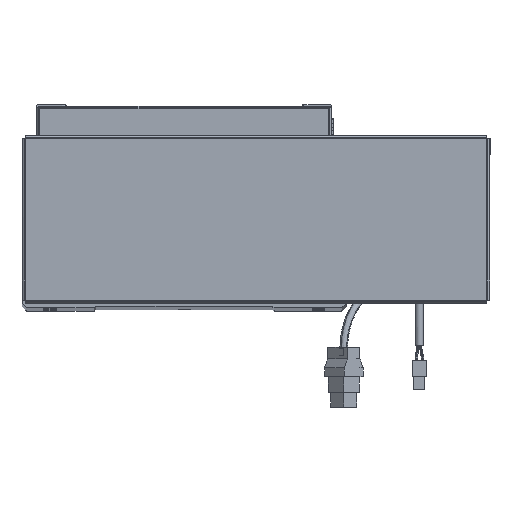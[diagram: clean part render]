
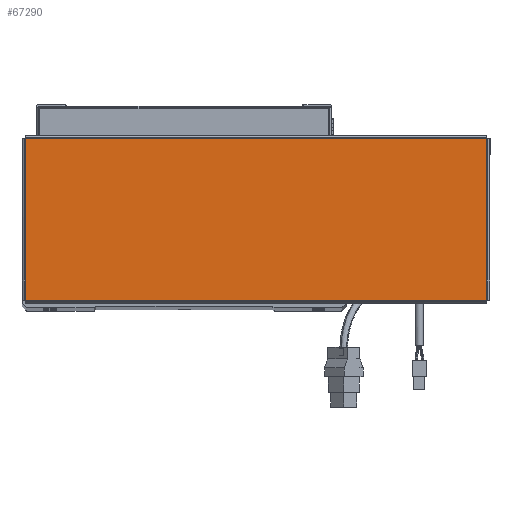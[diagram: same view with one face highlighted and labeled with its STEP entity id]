
A CAD part, top view. The second image highlights one B-rep face of the part: STEP entity #67290.
In plain terms, the highlighted planar face has unit normal (0, 0, 1).
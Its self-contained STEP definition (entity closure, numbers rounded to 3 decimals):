
#36 = LINE ( 'NONE', #52216, #54096 ) ;
#2365 = CARTESIAN_POINT ( 'NONE',  ( 0., 0., 0. ) ) ;
#5688 = CARTESIAN_POINT ( 'NONE',  ( -156.513, 54.793, 0. ) ) ;
#6201 = CARTESIAN_POINT ( 'NONE',  ( -156.513, 54.763, 0. ) ) ;
#6960 = VERTEX_POINT ( 'NONE', #6201 ) ;
#10448 = CARTESIAN_POINT ( 'NONE',  ( 156.513, 54.763, 0. ) ) ;
#11641 = VERTEX_POINT ( 'NONE', #55612 ) ;
#12009 = LINE ( 'NONE', #45072, #44850 ) ;
#12036 = DIRECTION ( 'NONE',  ( 1., 0., 0. ) ) ;
#13682 = CARTESIAN_POINT ( 'NONE',  ( 156.513, -54.763, 0. ) ) ;
#14426 = EDGE_CURVE ( 'NONE', #55791, #6960, #36, .T. ) ;
#17133 = EDGE_LOOP ( 'NONE', ( #58166, #52849, #65721, #42258 ) ) ;
#18627 = FACE_OUTER_BOUND ( 'NONE', #17133, .T. ) ;
#21364 = VERTEX_POINT ( 'NONE', #13682 ) ;
#25173 = VECTOR ( 'NONE', #48053, 1000. ) ;
#26924 = DIRECTION ( 'NONE',  ( -1., 0., 0. ) ) ;
#32986 = DIRECTION ( 'NONE',  ( 0., 0., 1. ) ) ;
#33383 = EDGE_CURVE ( 'NONE', #11641, #21364, #65772, .T. ) ;
#42258 = ORIENTED_EDGE ( 'NONE', *, *, #45357, .T. ) ;
#44844 = DIRECTION ( 'NONE',  ( 0., 1., 0. ) ) ;
#44850 = VECTOR ( 'NONE', #44844, 1000. ) ;
#45072 = CARTESIAN_POINT ( 'NONE',  ( 156.513, -54.793, 0. ) ) ;
#45357 = EDGE_CURVE ( 'NONE', #6960, #11641, #62125, .T. ) ;
#48053 = DIRECTION ( 'NONE',  ( 0., -1., 0. ) ) ;
#51900 = VECTOR ( 'NONE', #12036, 1000. ) ;
#52216 = CARTESIAN_POINT ( 'NONE',  ( 156.543, 54.763, 0. ) ) ;
#52849 = ORIENTED_EDGE ( 'NONE', *, *, #59703, .T. ) ;
#54096 = VECTOR ( 'NONE', #26924, 1000. ) ;
#54594 = PLANE ( 'NONE',  #57822 ) ;
#54818 = DIRECTION ( 'NONE',  ( 1., 0., 0. ) ) ;
#55612 = CARTESIAN_POINT ( 'NONE',  ( -156.513, -54.763, 0. ) ) ;
#55791 = VERTEX_POINT ( 'NONE', #10448 ) ;
#57822 = AXIS2_PLACEMENT_3D ( 'NONE', #2365, #32986, #54818 ) ;
#58166 = ORIENTED_EDGE ( 'NONE', *, *, #33383, .T. ) ;
#59703 = EDGE_CURVE ( 'NONE', #21364, #55791, #12009, .T. ) ;
#62125 = LINE ( 'NONE', #5688, #25173 ) ;
#64261 = CARTESIAN_POINT ( 'NONE',  ( -156.543, -54.763, 0. ) ) ;
#65721 = ORIENTED_EDGE ( 'NONE', *, *, #14426, .T. ) ;
#65772 = LINE ( 'NONE', #64261, #51900 ) ;
#67290 = ADVANCED_FACE ( 'NONE', ( #18627 ), #54594, .T. ) ;
